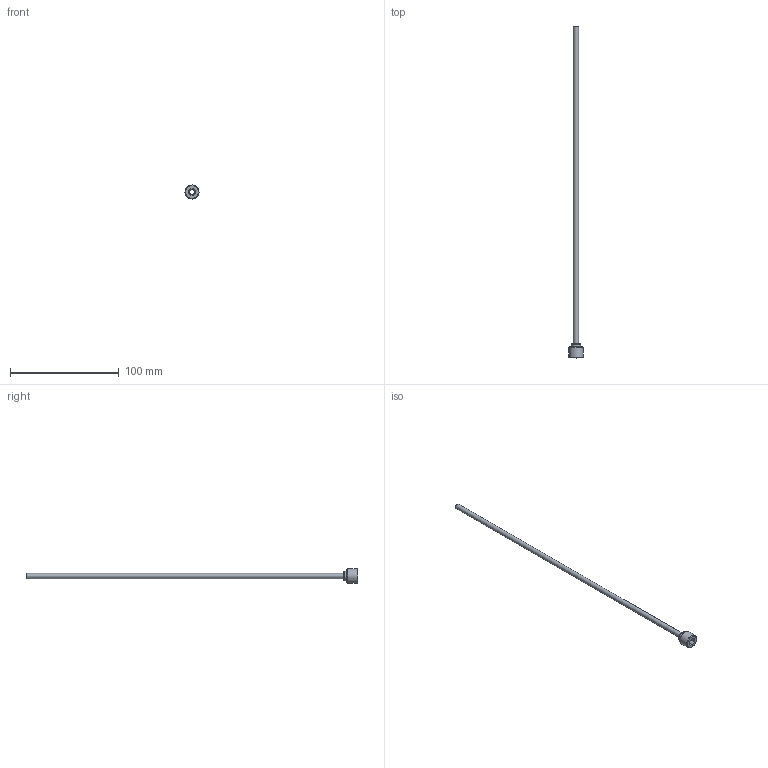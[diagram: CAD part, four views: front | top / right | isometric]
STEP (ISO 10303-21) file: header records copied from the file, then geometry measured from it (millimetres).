
FILE_DESCRIPTION(/* description */ (''),/* implementation_level */ '2;1');
FILE_NAME(/* name */ 'C:/Users/drich/Desktop/PT14-187-12 v1.step',/* time_stamp */ '2019-12-27T15:06:37-06:00',/* author */ (''),/* organization */ (''),/* preprocessor_version */ 'ST-DEVELOPER v18',/* originating_system */ 'Autodesk Translation Framework v8.12.0.6',/* authorisation */ '');
FILE_SCHEMA (('AUTOMOTIVE_DESIGN { 1 0 10303 214 3 1 1 }'));
Length unit declared in the file: inch
Products named in the file (1): PT14-187-12
Bounding box: 13.03 x 304.8 x 13.03 mm (x, y, z)
Volume: 2146 mm3; surface area: 9148.6 mm2
Topology: 1 solids, 1 shells, 19 faces, 48 edges, 34 vertices
Faces by surface type: plane 11, cylinder 4, torus 2, cone 2
Full cylindrical faces by diameter (mm): 4.242 x1, 4.724 x1, 8.712 x1, 13.032 x1
Entity records: 633 total; most frequent: DIRECTION 112, CARTESIAN_POINT 102, ORIENTED_EDGE 96, EDGE_CURVE 48, AXIS2_PLACEMENT_3D 44, VERTEX_POINT 34, CIRCLE 24, EDGE_LOOP 24
